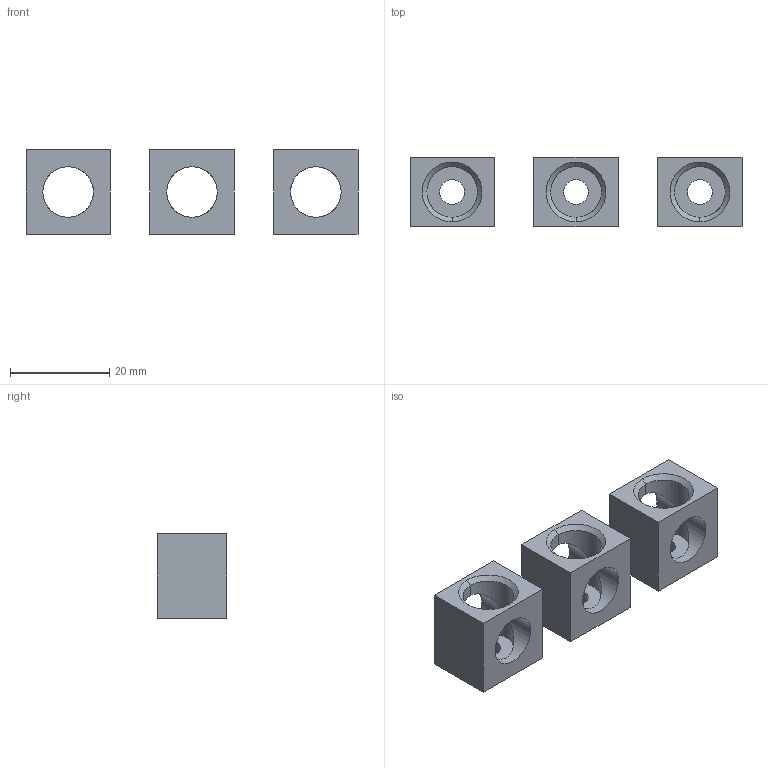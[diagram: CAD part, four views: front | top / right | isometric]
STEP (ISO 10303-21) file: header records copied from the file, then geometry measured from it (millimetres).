
FILE_DESCRIPTION (( 'STEP AP214' ), '1' );
FILE_NAME ('OptiMat E100 êîëîäêè 63-100 âåðõíèå.STEP', '2023-11-09T12:01:01', ( '' ), ( '' ), 'SwSTEP 2.0', 'SolidWorks 2018', '' );
FILE_SCHEMA (( 'AUTOMOTIVE_DESIGN' ));
Length unit declared in the file: millimetre
Products named in the file (3): Êîëîäêà ÃÆÈÊ.731173.009; OptiMat E100 êîëîäêè 63-100 âåðõíèå; E100 63-100   Êîëîäêà Ãæèê.687229.009ÑÁ
Assembly tree (4 placements, depth 3):
  OptiMat E100 êîëîäêè 63-100 âåðõíèå
    E100 63-100   Êîëîäêà Ãæèê.687229.009ÑÁ  x3
      Êîëîäêà ÃÆÈÊ.731173.009
Bounding box: 67 x 14 x 17 mm (x, y, z)
Volume: 7191.6 mm3; surface area: 5496.5 mm2
Topology: 3 solids, 3 shells, 57 faces, 150 edges, 96 vertices
Faces by surface type: cylinder 24, plane 21, cone 12
Entity records: 940 total; most frequent: CARTESIAN_POINT 313, DIRECTION 112, ORIENTED_EDGE 100, EDGE_CURVE 50, AXIS2_PLACEMENT_3D 43, VERTEX_POINT 32, LINE 26, VECTOR 26
